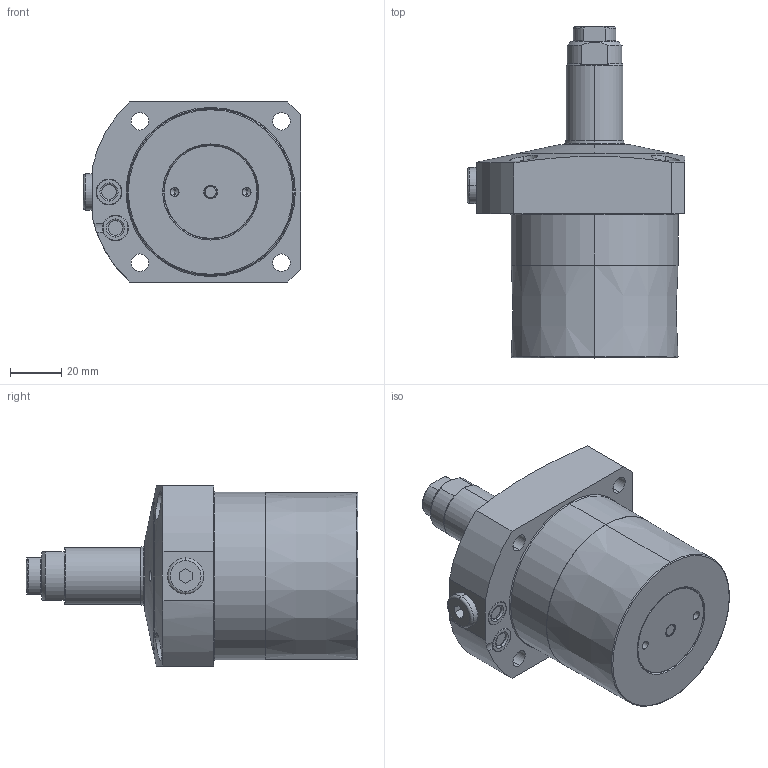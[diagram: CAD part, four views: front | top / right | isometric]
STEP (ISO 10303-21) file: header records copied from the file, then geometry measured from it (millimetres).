
FILE_DESCRIPTION(/* description */ (''),/* implementation_level */ '2;1');
FILE_NAME(/* name */ 'KFSS65-Q.stp',/* time_stamp */ '2026-02-06T10:41:01+08:00',/* author */ (''),/* organization */ (''),/* preprocessor_version */ 'ST-DEVELOPER v16.7',/* originating_system */ 'SIEMENS PLM Software NX 12.0',/* authorisation */ '');
FILE_SCHEMA (('AUTOMOTIVE_DESIGN { 1 0 10303 214 3 1 1 1 }'));
Length unit declared in the file: millimetre
Products named in the file (8): XLC-M12_contactbolt; XLC-M12_o-ring; KFSS65-Q-02; KFSS65-Q-03; KFSS65-Q-05-P7; KFSS65-Q-01; KFSS65-Q-04; LC0653-C-EQ_step
Assembly tree (8 placements, depth 3):
  LC0653-C-EQ_step
    KFSS65-Q-04
      XLC-M12_o-ring
      XLC-M12_contactbolt
    KFSS65-Q-01
    KFSS65-Q-05-P7  x2
    KFSS65-Q-03
    KFSS65-Q-02
Bounding box: 84.5 x 129 x 70 mm (x, y, z)
Volume: 312160.6 mm3; surface area: 39057.4 mm2
Topology: 7 solids, 7 shells, 243 faces, 531 edges, 319 vertices
Faces by surface type: cylinder 79, torus 60, plane 55, cone 47, sphere 2
Entity records: 6930 total; most frequent: CARTESIAN_POINT 1441, DIRECTION 1230, ORIENTED_EDGE 998, AXIS2_PLACEMENT_3D 532, EDGE_CURVE 499, VERTEX_POINT 305, CIRCLE 292, EDGE_LOOP 268
